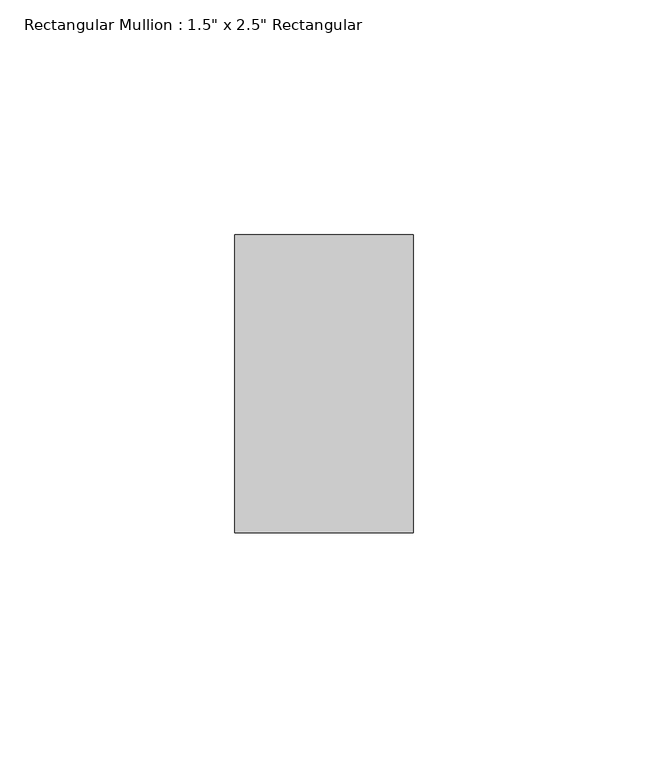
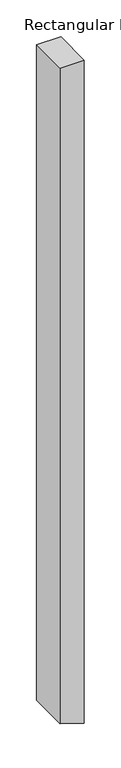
"""IFC4 building model written with IfcOpenShell, lengths in millimetres: member geometry."""

from ifc_helpers import new_model, si_unit, frame, origin, place, context, project, spatial, polyline, outline, extrude, source, transform, mapped, element, save


def member_b73a8a31(model_context):
    return source(origin(), model_context, "Body", "SweptSolid", [
        extrude(outline(polyline([(0.0, 19.05), (0.0, -19.05), (-1086.9640737, -19.05), (-1097.3301663, 12.0482779), (-1099.6640737, 19.05), (0.0, 19.05)])), frame((0.0, -31.75, 0.0), z_axis=(0.0, 1.0, 0.0), x_axis=(0.0, 0.0, 1.0)), (0.0, 0.0, 1.0), 63.5),
    ])


if __name__ == "__main__":
    model = new_model("IFC4")
    model_context = context("Model", 3, world=origin())
    ifc_project = project(units=[si_unit("LENGTHUNIT", "METRE", prefix="MILLI")], contexts=[model_context])
    site = spatial("IfcSite", under=ifc_project)
    building = spatial("IfcBuilding", under=site)
    placement = place(None, origin())
    member_shape = member_b73a8a31(model_context)
    element("IfcMember", 1, ObjectType="Rectangular Mullion : 1.5\" x 2.5\" Rectangular", at=placement, inside=building, context=model_context, shape_type="MappedRepresentation", body=[
        mapped(member_shape, transform((0.0, 0.0, 0.0), x_axis=(1.0, 0.0, 0.0), y_axis=(0.0, 1.0, 0.0), z_axis=(0.0, 0.0, 1.0))),
    ])
    save(model, "model.ifc")
